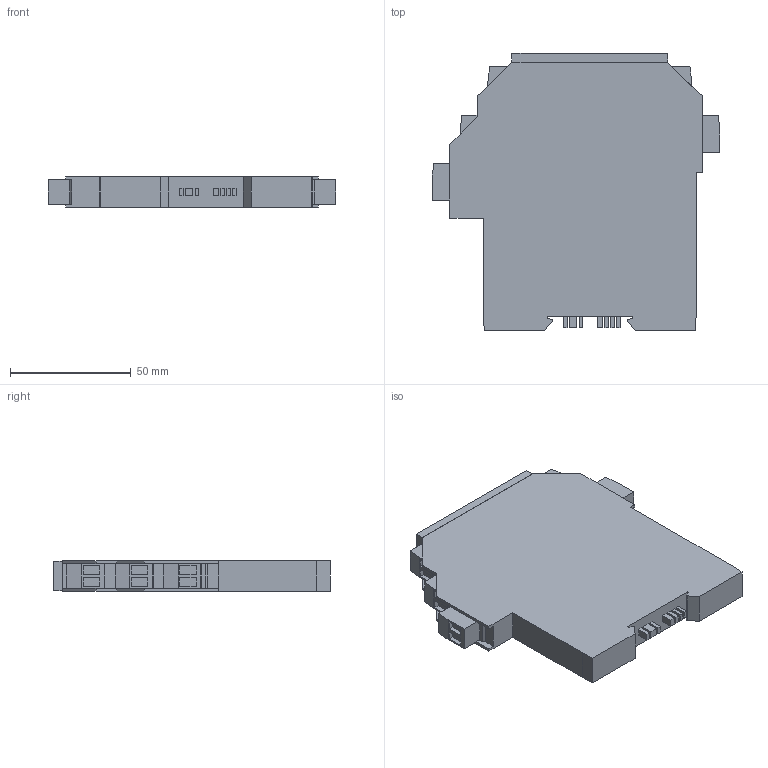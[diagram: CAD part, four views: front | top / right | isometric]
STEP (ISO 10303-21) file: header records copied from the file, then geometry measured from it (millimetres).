
FILE_DESCRIPTION((''),'2;1');
FILE_NAME('10001141078','2014-07-24T',('mguelmi'),('Rockwell Automation'),'PRO/ENGINEER BY PARAMETRIC TECHNOLOGY CORPORATION, 2012480','PRO/ENGINEER BY PARAMETRIC TECHNOLOGY CORPORATION, 2012480','');
FILE_SCHEMA(('CONFIG_CONTROL_DESIGN'));
Length unit declared in the file: millimetre
Products named in the file (1): 10001141078
Bounding box: 119.05 x 114.5 x 12.5 mm (x, y, z)
Volume: 129117.3 mm3; surface area: 30813.9 mm2
Topology: 1 solids, 1 shells, 241 faces, 617 edges, 410 vertices
Faces by surface type: plane 219, cylinder 22
Entity records: 7261 total; most frequent: CARTESIAN_POINT 1268, ORIENTED_EDGE 1234, DIRECTION 1183, EDGE_CURVE 617, VECTOR 533, LINE 533, VERTEX_POINT 410, AXIS2_PLACEMENT_3D 325
